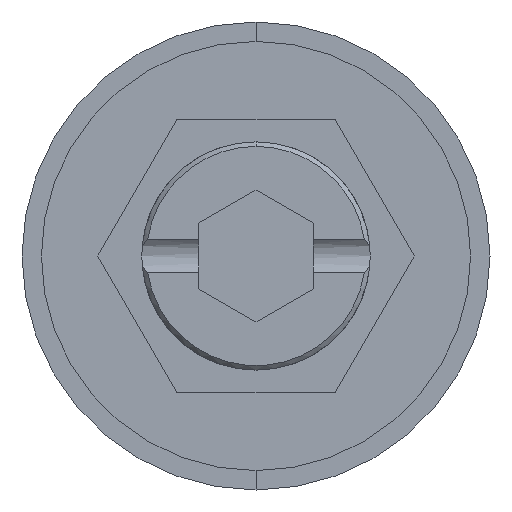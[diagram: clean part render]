
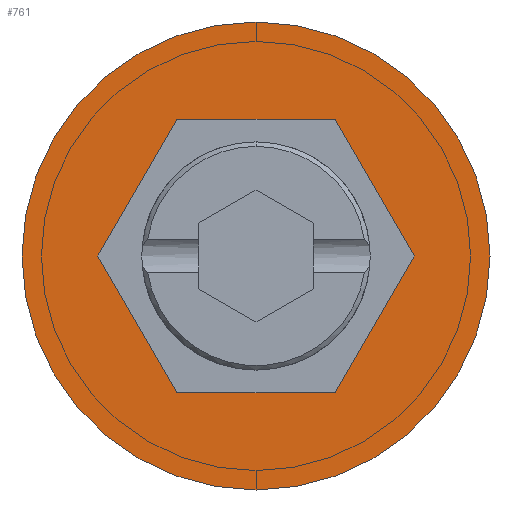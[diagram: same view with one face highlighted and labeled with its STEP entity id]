
A CAD part, front view. The second image highlights one B-rep face of the part: STEP entity #761.
In plain terms, the highlighted planar face has unit normal (0, -1, 0).
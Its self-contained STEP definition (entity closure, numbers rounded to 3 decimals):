
#18 = CARTESIAN_POINT ( 'NONE',  ( -3.464, 0., 6. ) ) ;
#40 = ORIENTED_EDGE ( 'NONE', *, *, #836, .F. ) ;
#64 = DIRECTION ( 'NONE',  ( 0., 0., -1. ) ) ;
#74 = VERTEX_POINT ( 'NONE', #376 ) ;
#102 = VECTOR ( 'NONE', #1178, 1000. ) ;
#110 = CARTESIAN_POINT ( 'NONE',  ( 0., 0., 0. ) ) ;
#111 = VERTEX_POINT ( 'NONE', #1147 ) ;
#115 = VERTEX_POINT ( 'NONE', #399 ) ;
#204 = LINE ( 'NONE', #1436, #1920 ) ;
#261 = CARTESIAN_POINT ( 'NONE',  ( -3.464, 0., -6. ) ) ;
#314 = AXIS2_PLACEMENT_3D ( 'NONE', #1003, #1107, #876 ) ;
#319 = EDGE_CURVE ( 'NONE', #931, #837, #838, .T. ) ;
#376 = CARTESIAN_POINT ( 'NONE',  ( 0., 0., 10.25 ) ) ;
#399 = CARTESIAN_POINT ( 'NONE',  ( 0., 0., -10.25 ) ) ;
#415 = ORIENTED_EDGE ( 'NONE', *, *, #1249, .T. ) ;
#432 = DIRECTION ( 'NONE',  ( -0.5, 0., -0.866 ) ) ;
#444 = LINE ( 'NONE', #1165, #102 ) ;
#467 = CARTESIAN_POINT ( 'NONE',  ( -6.928, 0., 0. ) ) ;
#510 = FACE_OUTER_BOUND ( 'NONE', #2029, .T. ) ;
#552 = ORIENTED_EDGE ( 'NONE', *, *, #1857, .T. ) ;
#616 = VECTOR ( 'NONE', #1001, 1000. ) ;
#637 = EDGE_CURVE ( 'NONE', #2139, #111, #444, .T. ) ;
#739 = AXIS2_PLACEMENT_3D ( 'NONE', #110, #1318, #64 ) ;
#746 = ORIENTED_EDGE ( 'NONE', *, *, #1311, .F. ) ;
#752 = ORIENTED_EDGE ( 'NONE', *, *, #1800, .F. ) ;
#761 = ADVANCED_FACE ( 'NONE', ( #881, #510 ), #985, .T. ) ;
#836 = EDGE_CURVE ( 'NONE', #1941, #1841, #1346, .T. ) ;
#837 = VERTEX_POINT ( 'NONE', #1148 ) ;
#838 = LINE ( 'NONE', #467, #616 ) ;
#876 = DIRECTION ( 'NONE',  ( 0., 0., -1. ) ) ;
#881 = FACE_BOUND ( 'NONE', #1539, .T. ) ;
#930 = DIRECTION ( 'NONE',  ( 1., 0., 0. ) ) ;
#931 = VERTEX_POINT ( 'NONE', #1083 ) ;
#985 = PLANE ( 'NONE',  #314 ) ;
#995 = DIRECTION ( 'NONE',  ( -1., 0., 0. ) ) ;
#1001 = DIRECTION ( 'NONE',  ( 0.5, 0., -0.866 ) ) ;
#1003 = CARTESIAN_POINT ( 'NONE',  ( 0., 0., 0. ) ) ;
#1069 = CARTESIAN_POINT ( 'NONE',  ( 3.464, 0., 6. ) ) ;
#1073 = CIRCLE ( 'NONE', #1384, 10.25 ) ;
#1083 = CARTESIAN_POINT ( 'NONE',  ( -6.928, 0., 0. ) ) ;
#1107 = DIRECTION ( 'NONE',  ( 0., -1., 0. ) ) ;
#1147 = CARTESIAN_POINT ( 'NONE',  ( 6.928, 0., 0. ) ) ;
#1148 = CARTESIAN_POINT ( 'NONE',  ( -3.464, 0., -6. ) ) ;
#1165 = CARTESIAN_POINT ( 'NONE',  ( 3.464, 0., -6. ) ) ;
#1178 = DIRECTION ( 'NONE',  ( 0.5, 0., 0.866 ) ) ;
#1223 = VECTOR ( 'NONE', #995, 1000. ) ;
#1226 = ORIENTED_EDGE ( 'NONE', *, *, #319, .F. ) ;
#1230 = ORIENTED_EDGE ( 'NONE', *, *, #1998, .F. ) ;
#1249 = EDGE_CURVE ( 'NONE', #115, #74, #2231, .T. ) ;
#1309 = CARTESIAN_POINT ( 'NONE',  ( 3.464, 0., -6. ) ) ;
#1311 = EDGE_CURVE ( 'NONE', #837, #2139, #2187, .T. ) ;
#1318 = DIRECTION ( 'NONE',  ( 0., -1., 0. ) ) ;
#1346 = LINE ( 'NONE', #1069, #1223 ) ;
#1384 = AXIS2_PLACEMENT_3D ( 'NONE', #2114, #2214, #2221 ) ;
#1436 = CARTESIAN_POINT ( 'NONE',  ( 6.928, 0., 0. ) ) ;
#1447 = DIRECTION ( 'NONE',  ( -0.5, 0., 0.866 ) ) ;
#1539 = EDGE_LOOP ( 'NONE', ( #746, #1226, #1230, #40, #752, #2167 ) ) ;
#1731 = CARTESIAN_POINT ( 'NONE',  ( -3.464, 0., 6. ) ) ;
#1800 = EDGE_CURVE ( 'NONE', #111, #1941, #204, .T. ) ;
#1841 = VERTEX_POINT ( 'NONE', #1731 ) ;
#1843 = VECTOR ( 'NONE', #930, 1000. ) ;
#1857 = EDGE_CURVE ( 'NONE', #74, #115, #1073, .T. ) ;
#1912 = CARTESIAN_POINT ( 'NONE',  ( 3.464, 0., 6. ) ) ;
#1920 = VECTOR ( 'NONE', #1447, 1000. ) ;
#1941 = VERTEX_POINT ( 'NONE', #1912 ) ;
#1998 = EDGE_CURVE ( 'NONE', #1841, #931, #2149, .T. ) ;
#2029 = EDGE_LOOP ( 'NONE', ( #415, #552 ) ) ;
#2114 = CARTESIAN_POINT ( 'NONE',  ( 0., 0., 0. ) ) ;
#2116 = VECTOR ( 'NONE', #432, 1000. ) ;
#2139 = VERTEX_POINT ( 'NONE', #1309 ) ;
#2149 = LINE ( 'NONE', #18, #2116 ) ;
#2167 = ORIENTED_EDGE ( 'NONE', *, *, #637, .F. ) ;
#2187 = LINE ( 'NONE', #261, #1843 ) ;
#2214 = DIRECTION ( 'NONE',  ( 0., -1., 0. ) ) ;
#2221 = DIRECTION ( 'NONE',  ( 0., 0., -1. ) ) ;
#2231 = CIRCLE ( 'NONE', #739, 10.25 ) ;
